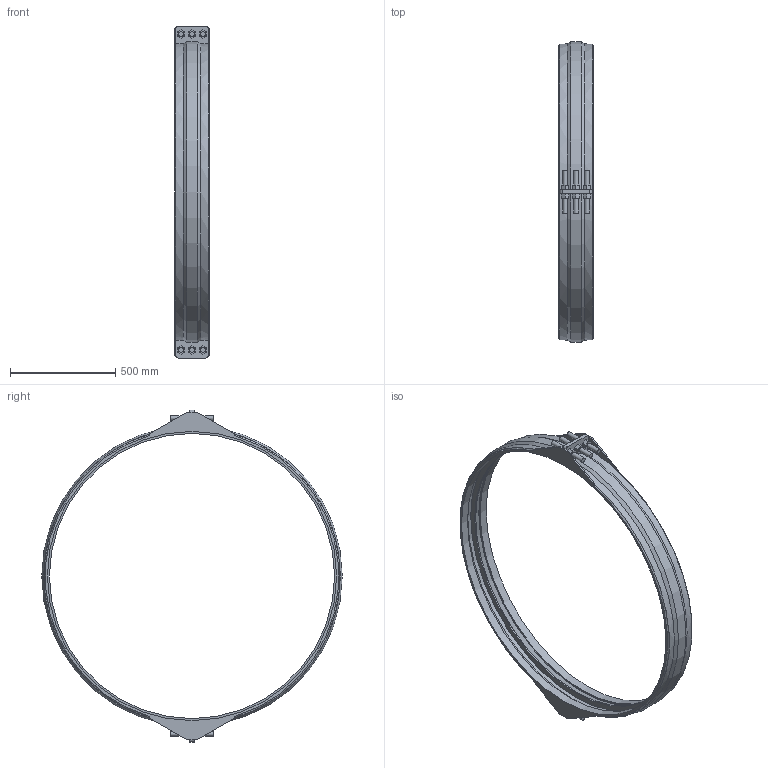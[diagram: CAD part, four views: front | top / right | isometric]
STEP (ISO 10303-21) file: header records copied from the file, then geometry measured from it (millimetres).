
FILE_DESCRIPTION(/* description */ ('VIC SS RESTRAINED COUPLING STYLE 234S (FLEX) (BRS)','CAx-IF Rec.Pracs.---Representation and Presentation of Product Manufacturing Information (PMI)---4.0---2014-10-13'),/* implementation_level */ '2;1');
FILE_NAME(/* name */ 'C:\Users\kkamble\AppData\Roaming\Autodesk\ApplicationPlugins\Back Up\Victaulic_VBSP_Coupling Flexible Restrained_Style 234S (BRS)\Victaulic_VBSP_Coupling Flexible Restrained_Style 234S (BRS)_100psi_54 (1350).stp',/* time_stamp */ '2020-09-22T18:42:26+05:00',/* author */ ('Vjadhav'),/* organization */ ('Victaulic'),/* preprocessor_version */ 'ST-DEVELOPER v17.2',/* originating_system */ 'Autodesk Inventor 2019',/* authorisation */ '');
FILE_SCHEMA (('AP242_MANAGED_MODEL_BASED_3D_ENGINEERING_MIM_LF { 1 0 10303 442 1 1 4 }'));
Length unit declared in the file: inch
Products named in the file (1): Style_234S_Type_2_100psi-54.0
Bounding box: 165.1 x 1425.44 x 1574.8 mm (x, y, z)
Volume: 11839041.1 mm3; surface area: 2175428.3 mm2
Topology: 1 solids, 1 shells, 191 faces, 477 edges, 316 vertices
Faces by surface type: plane 136, cylinder 43, torus 6, cone 6
Full cylindrical faces by diameter (mm): 22.225 x12, 1352.55 x1, 1371.6 x2, 1406.393 x2
Entity records: 6146 total; most frequent: CARTESIAN_POINT 1138, DIRECTION 997, ORIENTED_EDGE 954, EDGE_CURVE 477, LINE 351, VECTOR 351, AXIS2_PLACEMENT_3D 323, VERTEX_POINT 316
